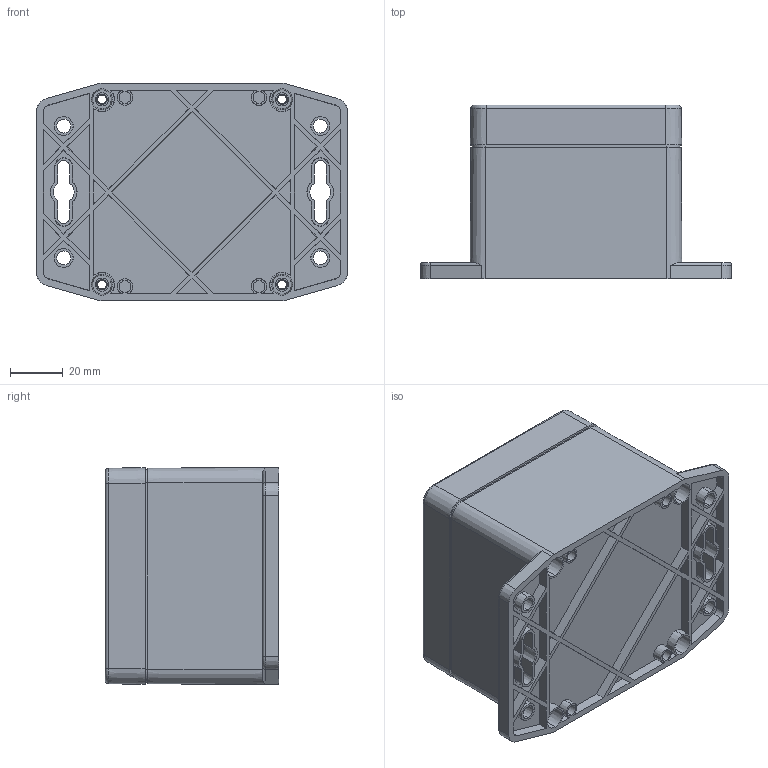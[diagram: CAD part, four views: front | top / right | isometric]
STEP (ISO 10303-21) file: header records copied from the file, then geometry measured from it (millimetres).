
FILE_DESCRIPTION (( 'STEP AP203' ), '1' );
FILE_NAME ('PF206.STEP', '2020-02-01T06:37:03', ( '' ), ( '' ), 'SwSTEP 2.0', 'SolidWorks 2020', '' );
FILE_SCHEMA (( 'CONFIG_CONTROL_DESIGN' ));
Length unit declared in the file: millimetre
Products named in the file (4): PF206
Assembly tree (3 placements, depth 2):
  PF206
    PF206
    PF206
    PF206
Bounding box: 117.9 x 65.8 x 82.41 mm (x, y, z)
Volume: 130298.8 mm3; surface area: 102243.2 mm2
Topology: 7 solids, 7 shells, 1157 faces, 2998 edges, 1944 vertices
Faces by surface type: plane 447, cylinder 270, bspline 232, cone 200, torus 8
Entity records: 38538 total; most frequent: CARTESIAN_POINT 10997, ORIENTED_EDGE 5996, DIRECTION 5228, EDGE_CURVE 2998, AXIS2_PLACEMENT_3D 1951, VERTEX_POINT 1944, LINE 1326, VECTOR 1326
